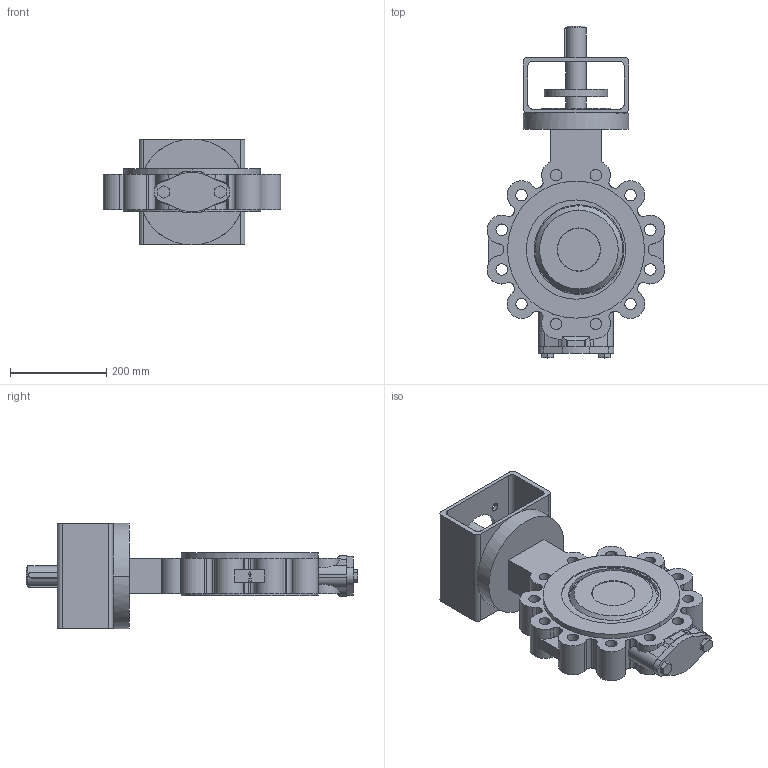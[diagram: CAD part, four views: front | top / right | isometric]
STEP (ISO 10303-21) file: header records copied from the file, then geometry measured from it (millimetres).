
FILE_DESCRIPTION( ( '' ), '1' );
FILE_NAME( 'F:/DE-SHS/TB/OR/04-Sonstiges/daten/files_3d/018_ZETRIX-PN10_freiesWellende/c000006382.stp', '2016-09-01T11:05:50', ( '' ), ( '' ), ' ', ' ', ' ' );
FILE_SCHEMA( ( 'CONFIG_CONTROL_DESIGN' ) );
Length unit declared in the file: millimetre
Products named in the file (1): 1
Bounding box: 369.05 x 690.3 x 220 mm (x, y, z)
Volume: 10058209 mm3; surface area: 843878.9 mm2
Topology: 1 solids, 1 shells, 319 faces, 860 edges, 568 vertices
Faces by surface type: cylinder 193, plane 118, cone 4, sphere 4
Entity records: 11139 total; most frequent: CARTESIAN_POINT 2688, DIRECTION 1869, ORIENTED_EDGE 1720, EDGE_CURVE 860, AXIS2_PLACEMENT_3D 737, VERTEX_POINT 568, CIRCLE 401, LINE 395
